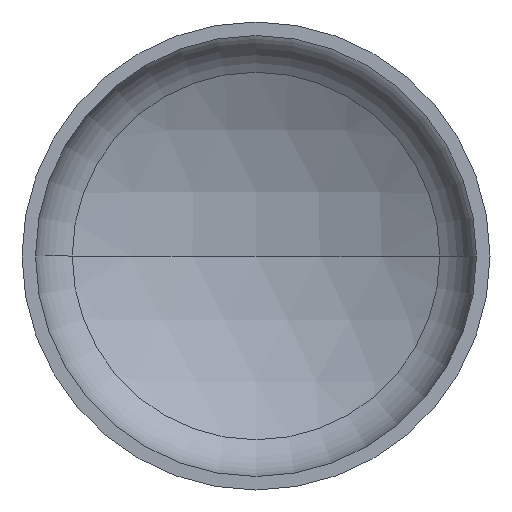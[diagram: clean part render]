
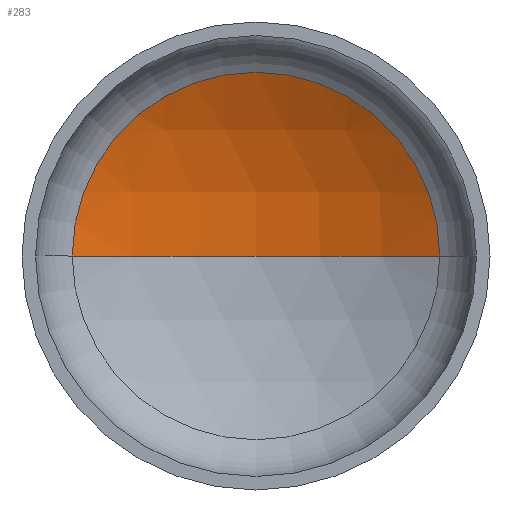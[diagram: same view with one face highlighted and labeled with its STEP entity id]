
A CAD part, front view. The second image highlights one B-rep face of the part: STEP entity #283.
In plain terms, the highlighted spherical face has radius 3040 mm.
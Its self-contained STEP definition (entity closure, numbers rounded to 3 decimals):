
#9 = AXIS2_PLACEMENT_3D ( 'NONE', #404, #207, #160 ) ;
#11 = DIRECTION ( 'NONE',  ( 0., 0., 1. ) ) ;
#13 = EDGE_LOOP ( 'NONE', ( #39, #137, #35 ) ) ;
#17 = DIRECTION ( 'NONE',  ( -1., 0., 0. ) ) ;
#26 = DIRECTION ( 'NONE',  ( 0., 0., -1. ) ) ;
#31 = CARTESIAN_POINT ( 'NONE',  ( 1492.138, 584.683, 0. ) ) ;
#35 = ORIENTED_EDGE ( 'NONE', *, *, #98, .T. ) ;
#39 = ORIENTED_EDGE ( 'NONE', *, *, #110, .F. ) ;
#44 = AXIS2_PLACEMENT_3D ( 'NONE', #275, #11, #144 ) ;
#47 = AXIS2_PLACEMENT_3D ( 'NONE', #261, #26, #17 ) ;
#48 = AXIS2_PLACEMENT_3D ( 'NONE', #233, #214, #215 ) ;
#98 = EDGE_CURVE ( 'NONE', #124, #103, #297, .T. ) ;
#100 = EDGE_CURVE ( 'NONE', #105, #124, #290, .T. ) ;
#103 = VERTEX_POINT ( 'NONE', #231 ) ;
#105 = VERTEX_POINT ( 'NONE', #221 ) ;
#110 = EDGE_CURVE ( 'NONE', #105, #103, #180, .T. ) ;
#124 = VERTEX_POINT ( 'NONE', #31 ) ;
#137 = ORIENTED_EDGE ( 'NONE', *, *, #100, .T. ) ;
#144 = DIRECTION ( 'NONE',  ( 1., 0., 0. ) ) ;
#160 = DIRECTION ( 'NONE',  ( -1., 0., 0. ) ) ;
#180 = CIRCLE ( 'NONE', #44, 3040. ) ;
#207 = DIRECTION ( 'NONE',  ( 0., 0., -1. ) ) ;
#214 = DIRECTION ( 'NONE',  ( 0., -1., 0. ) ) ;
#215 = DIRECTION ( 'NONE',  ( 1., 0., 0. ) ) ;
#221 = CARTESIAN_POINT ( 'NONE',  ( 0., 976.075, 0. ) ) ;
#226 = SPHERICAL_SURFACE ( 'NONE', #9, 3040. ) ;
#231 = CARTESIAN_POINT ( 'NONE',  ( -1492.138, 584.683, 0. ) ) ;
#233 = CARTESIAN_POINT ( 'NONE',  ( 0., 584.683, 0. ) ) ;
#261 = CARTESIAN_POINT ( 'NONE',  ( 0., -2063.925, 0. ) ) ;
#275 = CARTESIAN_POINT ( 'NONE',  ( 0., -2063.925, 0. ) ) ;
#283 = ADVANCED_FACE ( 'NONE', ( #389 ), #226, .F. ) ;
#290 = CIRCLE ( 'NONE', #47, 3040. ) ;
#297 = CIRCLE ( 'NONE', #48, 1492.138 ) ;
#389 = FACE_OUTER_BOUND ( 'NONE', #13, .T. ) ;
#404 = CARTESIAN_POINT ( 'NONE',  ( 0., -2063.925, 0. ) ) ;
